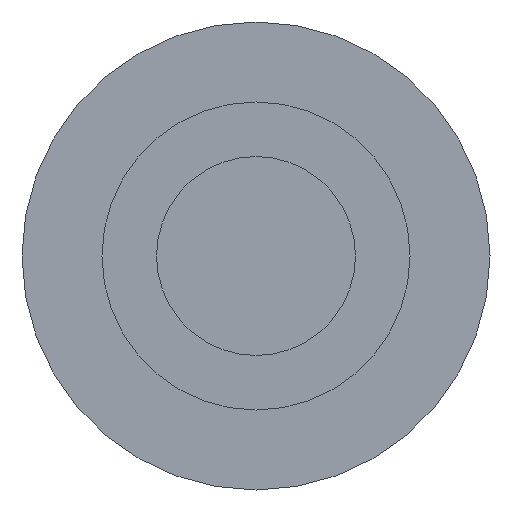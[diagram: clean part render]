
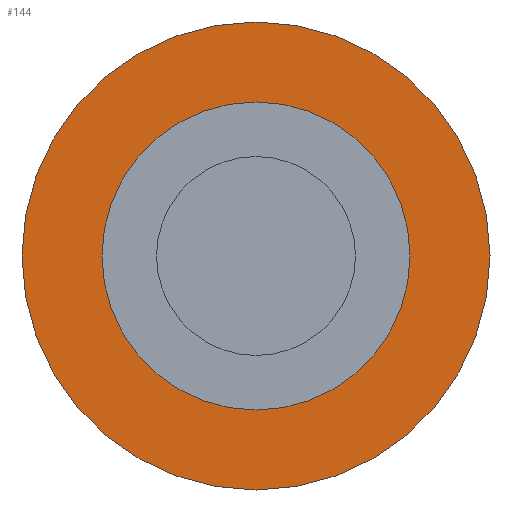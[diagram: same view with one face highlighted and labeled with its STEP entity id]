
A CAD part, front view. The second image highlights one B-rep face of the part: STEP entity #144.
In plain terms, the highlighted planar face has unit normal (0, -1, 0).
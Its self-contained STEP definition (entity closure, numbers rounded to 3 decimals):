
#1 = VERTEX_POINT ( 'NONE', #232 ) ;
#13 = AXIS2_PLACEMENT_3D ( 'NONE', #169, #174, #331 ) ;
#15 = DIRECTION ( 'NONE',  ( 0., 1., 0. ) ) ;
#24 = VERTEX_POINT ( 'NONE', #63 ) ;
#42 = DIRECTION ( 'NONE',  ( 0., 1., 0. ) ) ;
#63 = CARTESIAN_POINT ( 'NONE',  ( 0., 3., -3.95 ) ) ;
#92 = CARTESIAN_POINT ( 'NONE',  ( 0., 3., 0. ) ) ;
#95 = CIRCLE ( 'NONE', #301, 6. ) ;
#106 = CIRCLE ( 'NONE', #150, 3.95 ) ;
#108 = ORIENTED_EDGE ( 'NONE', *, *, #180, .F. ) ;
#119 = PLANE ( 'NONE',  #226 ) ;
#120 = CARTESIAN_POINT ( 'NONE',  ( 0., 3., 0. ) ) ;
#144 = ADVANCED_FACE ( 'NONE', ( #296, #164 ), #119, .F. ) ;
#145 = DIRECTION ( 'NONE',  ( 0., 0., 1. ) ) ;
#147 = DIRECTION ( 'NONE',  ( 0., 0., 1. ) ) ;
#150 = AXIS2_PLACEMENT_3D ( 'NONE', #120, #42, #221 ) ;
#163 = EDGE_LOOP ( 'NONE', ( #299, #178 ) ) ;
#164 = FACE_BOUND ( 'NONE', #163, .T. ) ;
#166 = EDGE_CURVE ( 'NONE', #24, #1, #106, .T. ) ;
#169 = CARTESIAN_POINT ( 'NONE',  ( 0., 3., 0. ) ) ;
#170 = DIRECTION ( 'NONE',  ( 0., 0., 1. ) ) ;
#173 = EDGE_CURVE ( 'NONE', #1, #24, #240, .T. ) ;
#174 = DIRECTION ( 'NONE',  ( 0., 1., 0. ) ) ;
#175 = CARTESIAN_POINT ( 'NONE',  ( 0., 3., 6. ) ) ;
#178 = ORIENTED_EDGE ( 'NONE', *, *, #173, .T. ) ;
#180 = EDGE_CURVE ( 'NONE', #274, #231, #95, .T. ) ;
#221 = DIRECTION ( 'NONE',  ( 0., 0., 1. ) ) ;
#222 = CIRCLE ( 'NONE', #13, 6. ) ;
#223 = EDGE_CURVE ( 'NONE', #231, #274, #222, .T. ) ;
#226 = AXIS2_PLACEMENT_3D ( 'NONE', #285, #260, #145 ) ;
#231 = VERTEX_POINT ( 'NONE', #264 ) ;
#232 = CARTESIAN_POINT ( 'NONE',  ( 0., 3., 3.95 ) ) ;
#240 = CIRCLE ( 'NONE', #259, 3.95 ) ;
#256 = EDGE_LOOP ( 'NONE', ( #284, #108 ) ) ;
#259 = AXIS2_PLACEMENT_3D ( 'NONE', #289, #15, #170 ) ;
#260 = DIRECTION ( 'NONE',  ( 0., 1., 0. ) ) ;
#264 = CARTESIAN_POINT ( 'NONE',  ( 0., 3., -6. ) ) ;
#274 = VERTEX_POINT ( 'NONE', #175 ) ;
#284 = ORIENTED_EDGE ( 'NONE', *, *, #223, .F. ) ;
#285 = CARTESIAN_POINT ( 'NONE',  ( 0., 3., 0. ) ) ;
#289 = CARTESIAN_POINT ( 'NONE',  ( 0., 3., 0. ) ) ;
#296 = FACE_OUTER_BOUND ( 'NONE', #256, .T. ) ;
#299 = ORIENTED_EDGE ( 'NONE', *, *, #166, .T. ) ;
#301 = AXIS2_PLACEMENT_3D ( 'NONE', #92, #318, #147 ) ;
#318 = DIRECTION ( 'NONE',  ( 0., 1., 0. ) ) ;
#331 = DIRECTION ( 'NONE',  ( 0., 0., 1. ) ) ;
